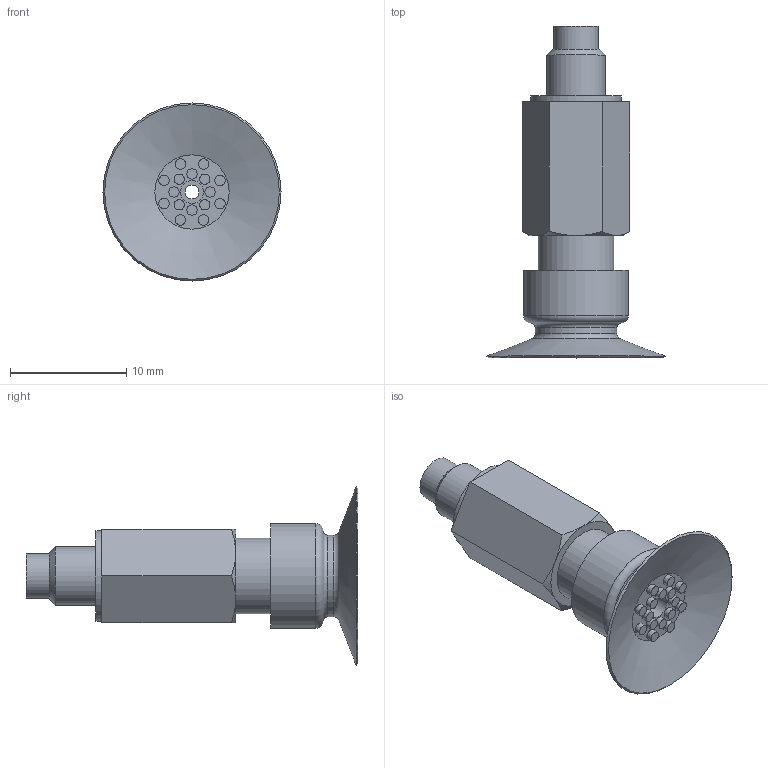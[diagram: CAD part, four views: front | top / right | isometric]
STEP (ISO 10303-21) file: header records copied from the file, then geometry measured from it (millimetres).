
FILE_DESCRIPTION(('STEP AP203'),'1');
FILE_NAME('.stp','2024-08-09T07:04:23',(' '),(' '),'Spatial InterOp 3D',' ',' ');
FILE_SCHEMA(('CONFIG_CONTROL_DESIGN'));
Length unit declared in the file: millimetre
Products named in the file (4): BPSS-L3-BPAG-15A-※; BPSS-10A-L3-M; BPSS-10A-L3-F; BPAG-15A-※
Assembly tree (3 placements, depth 2):
  BPSS-L3-BPAG-15A-※
    BPSS-10A-L3-M
    BPSS-10A-L3-F
    BPAG-15A-※
Bounding box: 15.3 x 28.5 x 15.3 mm (x, y, z)
Volume: 1124.5 mm3; surface area: 1951.3 mm2
Topology: 3 solids, 3 shells, 86 faces, 150 edges, 96 vertices
Faces by surface type: plane 38, cylinder 32, cone 10, torus 6
Full cylindrical faces by diameter (mm): 0.9 x16, 1.2 x1, 2 x1, 2.4 x2, 3.4 x1, 3.8 x1, 4 x2, 5 x1, 6 x2, 6.5 x2, 7 x1, 7.8 x1, 9 x1
Entity records: 2034 total; most frequent: DIRECTION 350, CARTESIAN_POINT 308, ORIENTED_EDGE 206, AXIS2_PLACEMENT_3D 169, EDGE_LOOP 160, FACE_OUTER_BOUND 124, EDGE_CURVE 103, VERTEX_POINT 91
